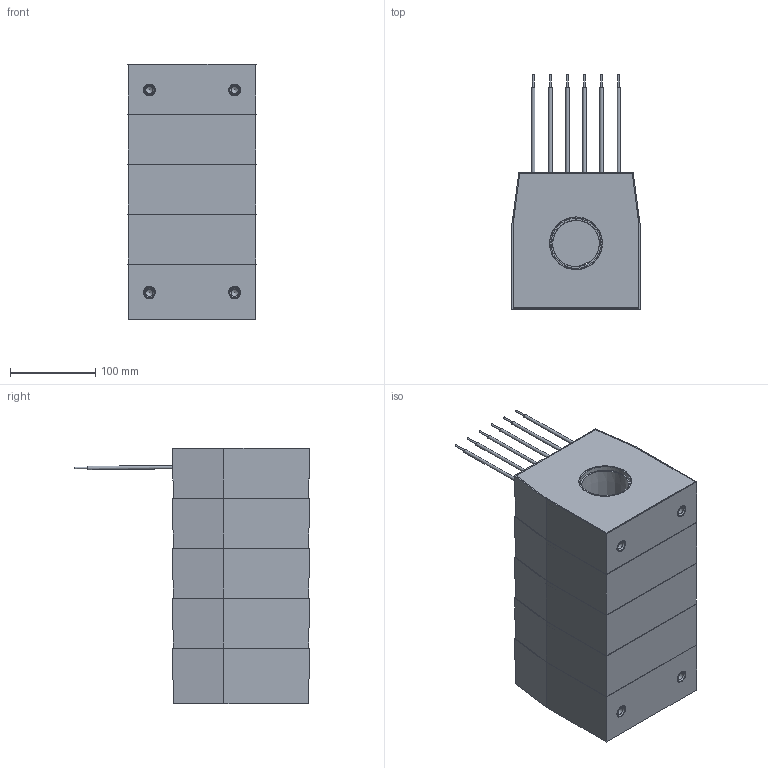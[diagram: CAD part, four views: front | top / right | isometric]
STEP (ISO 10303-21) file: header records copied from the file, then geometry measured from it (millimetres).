
FILE_DESCRIPTION(('STEP AP203'), '1');
FILE_NAME('ÒØÏ-ÍÒÇ-0,66-75Ñ (55 ìì, 5-é ãàáàðèò)', '2025-08-27T09:35:06', ('UNSPECIFIED'), ('UNSPECIFIED'), 'ASCON STEP Converter 1.3', 'ASCON Math Kernel', '');
FILE_SCHEMA(('CONFIG_CONTROL_DESIGN'));
Length unit declared in the file: millimetre
Assembly tree (21 placements, depth 2):
  (unnamed)
    (unnamed)
    (unnamed)  x3
    (unnamed)
    (unnamed)  x5
    (unnamed)  x4
    (unnamed)
    (unnamed)  x6
Bounding box: 150 x 274.82 x 299 mm (x, y, z)
Volume: 936715.7 mm3; surface area: 633402.1 mm2
Topology: 21 solids, 21 shells, 359 faces, 820 edges, 535 vertices
Faces by surface type: plane 235, cylinder 85, cone 31, torus 8
Full cylindrical faces by diameter (mm): 2 x6, 3.9 x6, 4 x5, 6 x16, 8.376 x4, 14 x8, 17 x4, 55 x1, 55.05 x1, 58.599 x10, 58.6 x1, 61 x1, 65.05 x1, 68.6 x1
Entity records: 7300 total; most frequent: CARTESIAN_POINT 923, DIRECTION 876, ORIENTED_EDGE 790, EDGE_CURVE 395, LINE 300, VECTOR 300, AXIS2_PLACEMENT_3D 288, VERTEX_POINT 286
